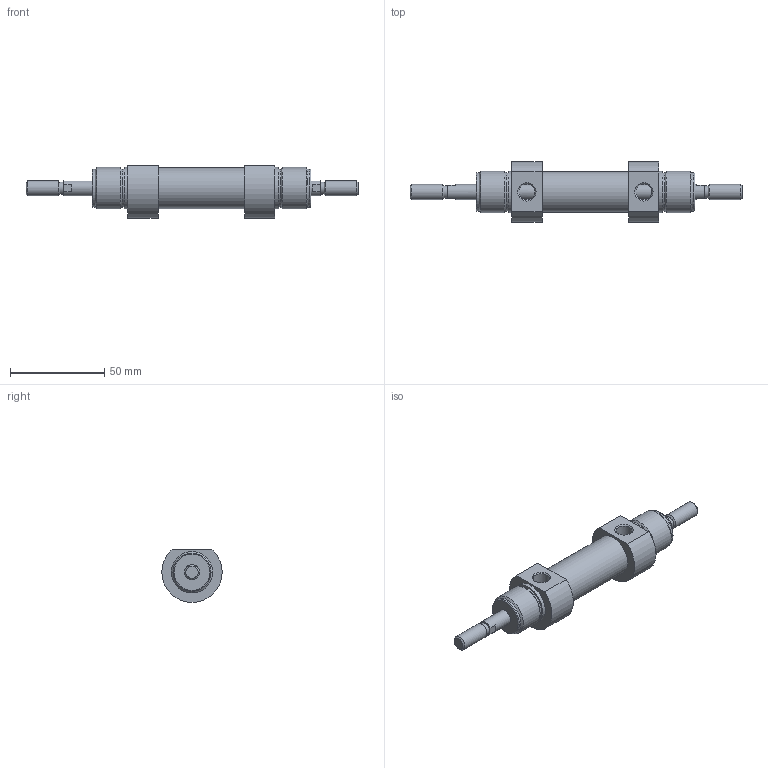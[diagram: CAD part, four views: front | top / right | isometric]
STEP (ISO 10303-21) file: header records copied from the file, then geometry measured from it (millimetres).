
FILE_DESCRIPTION( ( 'STEP AP203' ), '1' );
FILE_NAME( '//expscmdclustefs.cadenas.external/client_exchange/iodir/jobs/output/wkb68459003_no0/STEP/M101-020-0010--__0__2_03.stp', ' ', ( ' ' ), ( ' ' ), 'PSStep 15.0.47', 'PARTsolutions', ' ' );
FILE_SCHEMA( ( 'CONFIG_CONTROL_DESIGN' ) );
Length unit declared in the file: millimetre
Products named in the file (3): M101-020-0010-- [0]; HI_M101-020-0010---[0]-z; HI_M101-020-0010---[0]-k
Assembly tree (2 placements, depth 2):
  M101-020-0010-- [0]
    HI_M101-020-0010---[0]-z
    HI_M101-020-0010---[0]-k
Bounding box: 176 x 32 x 28 mm (x, y, z)
Volume: 53987.9 mm3; surface area: 20804 mm2
Topology: 2 solids, 2 shells, 65 faces, 129 edges, 80 vertices
Faces by surface type: plane 26, cylinder 23, cone 14, torus 2
Full cylindrical faces by diameter (mm): 6.466 x2, 8 x6, 8.566 x2, 20 x2, 20.16 x4, 21.6 x1, 22 x4
Entity records: 1702 total; most frequent: CARTESIAN_POINT 356, DIRECTION 280, ORIENTED_EDGE 184, AXIS2_PLACEMENT_3D 128, EDGE_LOOP 116, EDGE_CURVE 92, FACE_OUTER_BOUND 88, VERTEX_POINT 76
